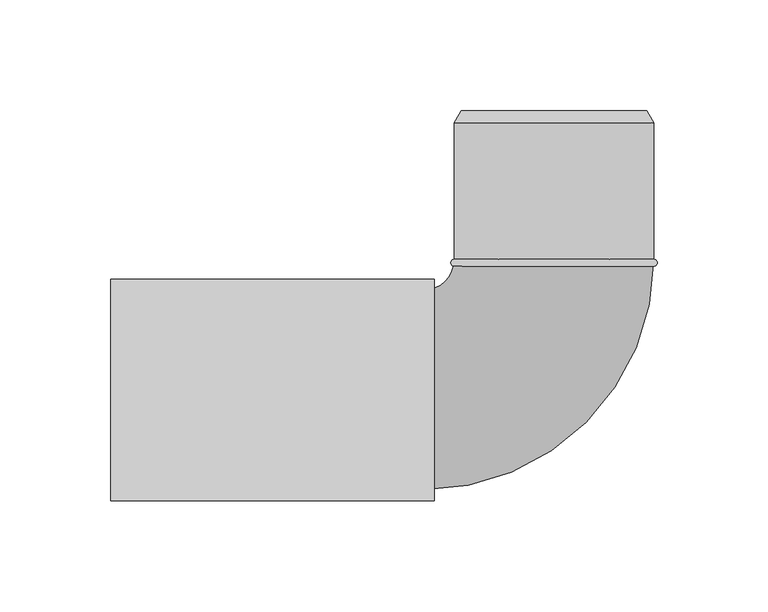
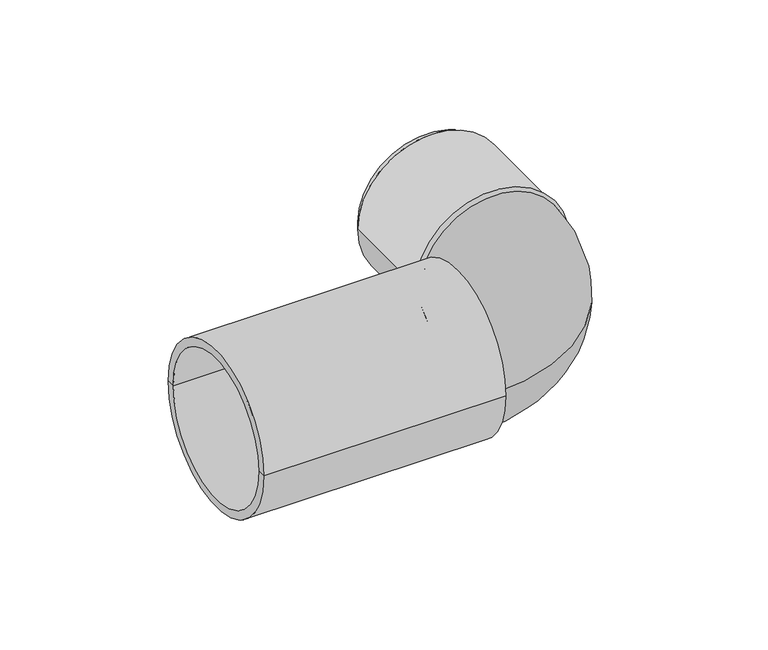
"""IFC4 building model written with IfcOpenShell, lengths in millimetres: pipe fitting geometry, NLRS_52_PIF_UN_Geberit Silent-PP aansluitbocht 87,5° voor wc_PRO_101524 : DN90-100 / d90-110 - OD."""

from ifc_helpers import new_model, si_unit, point, frame, origin, place, context, project, spatial, polyline, circle_curve, ellipse_curve, trimmed, source, transform, mapped, element, save
from ifc_brep_helpers import plane_surface, cylinder_surface, revolved_surface, advanced_brep


def pipe_fitting_2ba4615a(model_context):
    return source(origin(), model_context, "Body", "AdvancedBrep", [
        advanced_brep(
        [(45.0, 55.9, 0.0), (-45.0, 55.9, 0.0), (-45.0, 59.0, 0.0), (45.0, 59.0, 0.0)],
        [
            (0, 1, circle_curve(frame((0.0, 55.9, 0.0), z_axis=(0.0, 1.0, 0.0), x_axis=(-1.0, 0.0, 0.0)), 45.0)),
            (1, 2, circle_curve(frame((-45.0, 57.45, 0.0), z_axis=(0.0, 0.0, -1.0), x_axis=(0.0, 1.0, 0.0)), 1.55)),
            (2, 3, circle_curve(frame((0.0, 59.0, 0.0), z_axis=(0.0, -1.0, 0.0), x_axis=(-1.0, 0.0, 0.0)), 45.0)),
            (3, 0, circle_curve(frame((45.0, 57.45, 0.0), z_axis=(0.0, 0.0, -1.0), x_axis=(0.0, 1.0, 0.0)), 1.55)),
            (1, 0, circle_curve(frame((0.0, 55.9, 0.0), z_axis=(0.0, 1.0, 0.0), x_axis=(-1.0, 0.0, 0.0)), 45.0)),
            (3, 2, circle_curve(frame((0.0, 59.0, 0.0), z_axis=(0.0, -1.0, 0.0), x_axis=(-1.0, 0.0, 0.0)), 45.0)),
            (2, 1),
            (0, 3),
        ],
        [
            revolved_surface(trimmed(ellipse_curve(frame((-45.0, 57.45, 0.0), z_axis=(0.0, 0.0, 1.0), x_axis=(0.0, 1.0, 0.0)), 1.55, 1.55), [point((-45.0, 59.0, 0.0))], [point((-45.0, 55.9, 0.0))], True, "CARTESIAN"), (0.0, 47.3909381, 0.0), (0.0, -1.0, 0.0)),
            revolved_surface(polyline([(-45.0, 55.9, 0.0), (-45.0, 59.0, 0.0)]), (0.0, 47.3909381, 0.0), (0.0, -1.0, 0.0)),
        ],
        [
            (0, [[1, 2, 3, 4]]),
            (0, [[5, -4, 6, -2]]),
            (1, [[-3, 7, -1, 8]]),
            (1, [[-6, -8, -5, -7]]),
        ],
    ),
        advanced_brep(
        [(41.9, 126.0, 0.0), (-41.9, 126.0, 0.0), (0.0, 126.0, 0.0), (45.0, 120.6306425, 0.0), (-45.0, 120.6306425, 0.0), (45.0, 59.0, 0.0), (-45.0, 59.0, 0.0), (0.0, 59.0, 0.0)],
        [
            (0, 1, circle_curve(frame((0.0, 126.0, 0.0), z_axis=(0.0, 1.0, 0.0), x_axis=(-1.0, 0.0, 0.0)), 41.9)),
            (1, 2),
            (2, 0),
            (1, 0, circle_curve(frame((0.0, 126.0, 0.0), z_axis=(0.0, 1.0, 0.0), x_axis=(-1.0, 0.0, 0.0)), 41.9)),
            (3, 4, circle_curve(frame((0.0, 120.6306425, 0.0), z_axis=(0.0, 1.0, 0.0), x_axis=(-1.0, 0.0, 0.0)), 45.0)),
            (4, 1),
            (0, 3),
            (4, 3, circle_curve(frame((0.0, 120.6306425, 0.0), z_axis=(0.0, 1.0, 0.0), x_axis=(-1.0, 0.0, 0.0)), 45.0)),
            (5, 6, circle_curve(frame((0.0, 59.0, 0.0), z_axis=(0.0, 1.0, 0.0), x_axis=(-1.0, 0.0, 0.0)), 45.0)),
            (6, 4),
            (3, 5),
            (6, 5, circle_curve(frame((0.0, 59.0, 0.0), z_axis=(0.0, 1.0, 0.0), x_axis=(-1.0, 0.0, 0.0)), 45.0)),
            (7, 6),
            (5, 7),
        ],
        [
            plane_surface(frame((0.0, 126.0, 0.0), z_axis=(0.0, 1.0, 0.0), x_axis=(-1.0, 0.0, 0.0))),
            revolved_surface(polyline([(-41.9, 126.0, 0.0), (-45.0, 120.6306425, 0.0)]), (0.0, 141.0, 0.0), (0.0, -1.0, 0.0)),
            cylinder_surface(frame((0.0, 141.0, 0.0), z_axis=(0.0, -1.0, 0.0), x_axis=(-1.0, 0.0, 0.0)), 45.0),
            plane_surface(frame((0.0, 59.0, 0.0), z_axis=(0.0, -1.0, 0.0), x_axis=(-1.0, 0.0, 0.0))),
        ],
        [
            (0, [[1, 2, 3]]),
            (0, [[4, -3, -2]]),
            (1, [[5, 6, -1, 7]]),
            (1, [[8, -7, -4, -6]]),
            (2, [[9, 10, -5, 11]]),
            (2, [[12, -11, -8, -10]]),
            (3, [[13, -9, 14]]),
            (3, [[-14, -12, -13]]),
        ],
    ),
        advanced_brep(
        [(-59.0, 45.0, 0.0), (-59.0, -45.0, 0.0), (-59.0, 0.0, 0.0), (-200.0, 45.0, 0.0), (-200.0, -45.0, 0.0), (-200.0, 50.0, 0.0), (-200.0, -50.0, 0.0), (-54.0, 50.0, 0.0), (-54.0, -50.0, 0.0), (-54.0, 0.0, 0.0)],
        [
            (0, 1, circle_curve(frame((-59.0, 0.0, 0.0), z_axis=(-1.0, 0.0, 0.0), x_axis=(0.0, -1.0, 0.0)), 45.0)),
            (1, 2),
            (2, 0),
            (1, 0, circle_curve(frame((-59.0, 0.0, 0.0), z_axis=(-1.0, 0.0, 0.0), x_axis=(0.0, -1.0, 0.0)), 45.0)),
            (3, 4, circle_curve(frame((-200.0, 0.0, 0.0), z_axis=(-1.0, 0.0, 0.0), x_axis=(0.0, -1.0, 0.0)), 45.0)),
            (4, 1),
            (0, 3),
            (4, 3, circle_curve(frame((-200.0, 0.0, 0.0), z_axis=(-1.0, 0.0, 0.0), x_axis=(0.0, -1.0, 0.0)), 45.0)),
            (5, 6, circle_curve(frame((-200.0, 0.0, 0.0), z_axis=(-1.0, 0.0, 0.0), x_axis=(0.0, -1.0, 0.0)), 50.0)),
            (6, 4),
            (3, 5),
            (6, 5, circle_curve(frame((-200.0, 0.0, 0.0), z_axis=(-1.0, 0.0, 0.0), x_axis=(0.0, -1.0, 0.0)), 50.0)),
            (7, 8, circle_curve(frame((-54.0, 0.0, 0.0), z_axis=(-1.0, 0.0, 0.0), x_axis=(0.0, -1.0, 0.0)), 50.0)),
            (8, 6),
            (5, 7),
            (8, 7, circle_curve(frame((-54.0, 0.0, 0.0), z_axis=(-1.0, 0.0, 0.0), x_axis=(0.0, -1.0, 0.0)), 50.0)),
            (9, 8),
            (7, 9),
        ],
        [
            plane_surface(frame((-59.0, 0.0, 0.0), z_axis=(-1.0, 0.0, 0.0), x_axis=(0.0, -1.0, 0.0))),
            revolved_surface(polyline([(-59.0, -45.0, 0.0), (-200.0, -45.0, 0.0)]), (-34.0, 0.0, 0.0), (1.0, 0.0, 0.0)),
            plane_surface(frame((-200.0, 0.0, 0.0), z_axis=(-1.0, 0.0, 0.0), x_axis=(0.0, -1.0, 0.0))),
            cylinder_surface(frame((-34.0, 0.0, 0.0), z_axis=(1.0, 0.0, 0.0), x_axis=(0.0, -1.0, 0.0)), 50.0),
            plane_surface(frame((-54.0, 0.0, 0.0), z_axis=(1.0, 0.0, 0.0), x_axis=(0.0, -1.0, 0.0))),
        ],
        [
            (0, [[1, 2, 3]]),
            (0, [[4, -3, -2]]),
            (1, [[5, 6, -1, 7]]),
            (1, [[8, -7, -4, -6]]),
            (2, [[9, 10, -5, 11]]),
            (2, [[12, -11, -8, -10]]),
            (3, [[13, 14, -9, 15]]),
            (3, [[16, -15, -12, -14]]),
            (4, [[17, -13, 18]]),
            (4, [[-18, -16, -17]]),
        ],
    ),
        advanced_brep(
        [(-45.0, 59.0, 0.0), (45.0, 59.0, 0.0), (-59.0, 45.0, 0.0), (-59.0, -45.0, 0.0)],
        [
            (0, 1, circle_curve(frame((0.0, 59.0, 0.0), z_axis=(0.0, 1.0, 0.0), x_axis=(1.0, 0.0, 0.0)), 45.0)),
            (1, 0, circle_curve(frame((0.0, 59.0, 0.0), z_axis=(0.0, 1.0, 0.0), x_axis=(1.0, 0.0, 0.0)), 45.0)),
            (2, 3, circle_curve(frame((-59.0, 0.0, 0.0), z_axis=(-1.0, 0.0, 0.0), x_axis=(0.0, -1.0, 0.0)), 45.0)),
            (3, 2, circle_curve(frame((-59.0, 0.0, 0.0), z_axis=(-1.0, 0.0, 0.0), x_axis=(0.0, -1.0, 0.0)), 45.0)),
            (3, 1, circle_curve(frame((-59.0, 59.0, 0.0), z_axis=(0.0, 0.0, 1.0), x_axis=(1.0, 0.0, 0.0)), 104.0)),
            (0, 2, circle_curve(frame((-59.0, 59.0, 0.0), z_axis=(0.0, 0.0, -1.0), x_axis=(1.0, 0.0, 0.0)), 14.0)),
        ],
        [
            plane_surface(frame((0.0, 59.0, 0.0), z_axis=(0.0, 1.0, 0.0), x_axis=(0.0, 0.0, 1.0))),
            plane_surface(frame((-59.0, 0.0, 0.0), z_axis=(-1.0, 0.0, 0.0), x_axis=(0.0, 0.0, 1.0))),
            revolved_surface(trimmed(ellipse_curve(frame((0.0, 59.0, 0.0), z_axis=(0.0, 1.0, 0.0), x_axis=(1.0, 0.0, 0.0)), 45.0, 45.0), [point((-45.0, 59.0, 0.0))], [point((45.0, 59.0, 0.0))], True, "CARTESIAN"), (-59.0, 59.0, 0.0), (0.0, 0.0, -1.0)),
            revolved_surface(trimmed(ellipse_curve(frame((0.0, 59.0, 0.0), z_axis=(0.0, 1.0, 0.0), x_axis=(1.0, 0.0, 0.0)), 45.0, 45.0), [point((45.0, 59.0, 0.0))], [point((-45.0, 59.0, 0.0))], True, "CARTESIAN"), (-59.0, 59.0, 0.0), (0.0, 0.0, -1.0)),
        ],
        [
            (0, [[1, 2]]),
            (1, [[3, 4]]),
            (2, [[5, -1, 6, -4]]),
            (3, [[-6, -2, -5, -3]]),
        ],
    ),
    ])


if __name__ == "__main__":
    model = new_model("IFC4")
    model_context = context("Model", 3, world=origin())
    ifc_project = project(units=[si_unit("LENGTHUNIT", "METRE", prefix="MILLI")], contexts=[model_context])
    site = spatial("IfcSite", under=ifc_project)
    building = spatial("IfcBuilding", under=site)
    placement = place(None, origin())
    pipe_fitting_shape = pipe_fitting_2ba4615a(model_context)
    element("IfcPipeFitting", 1, ObjectType="NLRS_52_PIF_UN_Geberit Silent-PP aansluitbocht 87,5° voor wc_PRO_101524 : DN90-100 / d90-110 - OD", at=placement, inside=building, context=model_context, shape_type="MappedRepresentation", body=[
        mapped(pipe_fitting_shape, transform((0.0, 0.0, 0.0), x_axis=(1.0, 0.0, 0.0), y_axis=(0.0, 1.0, 0.0), z_axis=(0.0, 0.0, 1.0))),
    ])
    save(model, "model.ifc")
